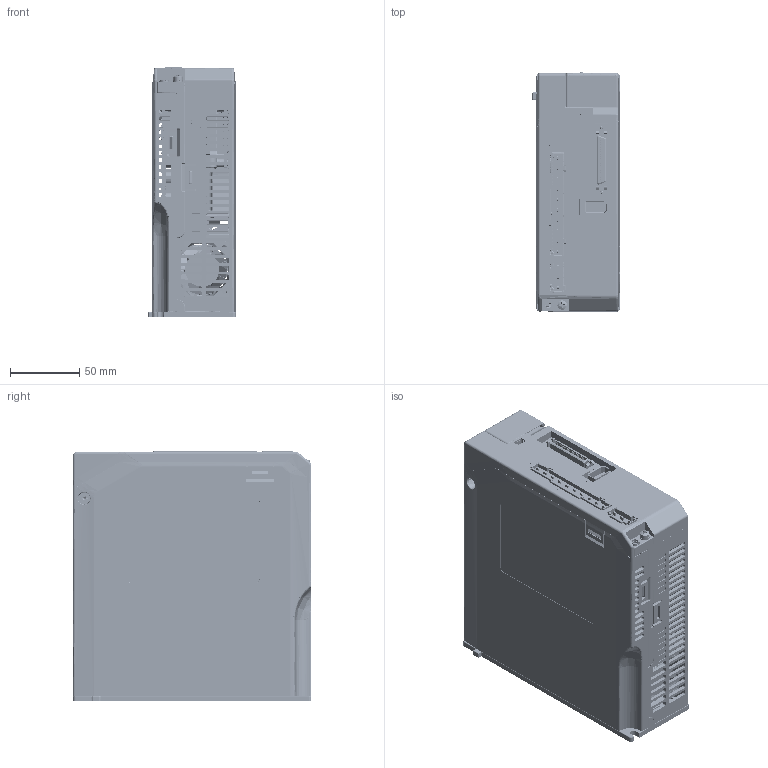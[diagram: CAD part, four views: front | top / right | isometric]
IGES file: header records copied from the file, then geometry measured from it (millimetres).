
Start section: SolidWorks IGES file using analytic representation for surfaces
Global section: file name: Z:\Products\Servo\08.2024\UNITRONICS\B5 & E5-S Drivers\200VAC ,Rated power:1kW~1.5KW CanOPEN\400VAC ,Rated power:1kW~1.5KW CanOPEN.IGS; native system: SolidWorks 2022; preprocessor: SolidWorks 2022; author: OfirZ; date: 240910.104635; units: millimetre
Bounding box: 63 x 172.3 x 181 mm (x, y, z)
Surface area: 598214.5 mm2 (no closed solid volume)
Topology: 0 solids, 0 shells, 16009 faces, 128204 edges, 127981 vertices
Faces by surface type: bspline 11477, revolution 4532
